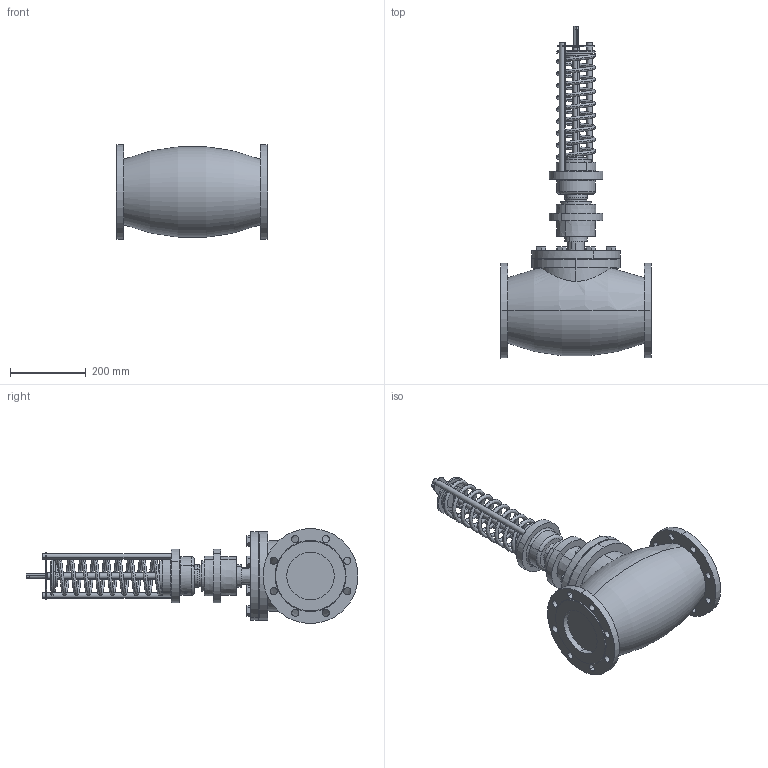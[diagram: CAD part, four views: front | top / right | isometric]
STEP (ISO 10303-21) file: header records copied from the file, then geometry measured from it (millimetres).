
FILE_DESCRIPTION (( 'STEP AP214' ), '1' );
FILE_NAME ('RDT, RDT-P DN-125 (0.1).STEP', '2025-12-12T07:27:21', ( '' ), ( '' ), 'SwSTEP 2.0', 'SolidWorks 2023', '' );
FILE_SCHEMA (( 'AUTOMOTIVE_DESIGN' ));
Length unit declared in the file: millimetre
Products named in the file (5): RDT, RDT-P DN-125 (0.1); RDT, RDT-P DN-125 (0.1).stp; Деталь48^RDT, RDT-P DN-125 (0.1); RDT___ DN-125-150(0.1).stp; RDT DN-125(______).stp
Assembly tree (4 placements, depth 3):
  RDT, RDT-P DN-125 (0.1)
    RDT, RDT-P DN-125 (0.1).stp
      RDT___ DN-125-150(0.1).stp
      RDT DN-125(______).stp
    Деталь48^RDT, RDT-P DN-125 (0.1)
Bounding box: 400.01 x 874.01 x 250 mm (x, y, z)
Volume: 19504535.1 mm3; surface area: 831305.1 mm2
Topology: 4 solids, 4 shells, 261 faces, 630 edges, 403 vertices
Faces by surface type: plane 105, cylinder 96, cone 41, torus 12, bspline 7
Entity records: 12429 total; most frequent: CARTESIAN_POINT 5937, DIRECTION 1398, ORIENTED_EDGE 1256, EDGE_CURVE 628, AXIS2_PLACEMENT_3D 534, VERTEX_POINT 403, VECTOR 330, LINE 330
